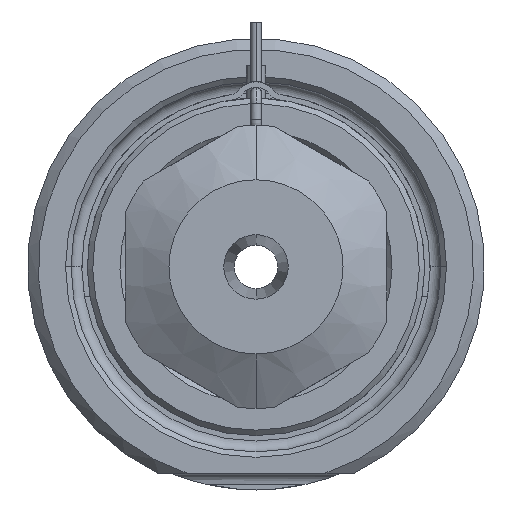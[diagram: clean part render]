
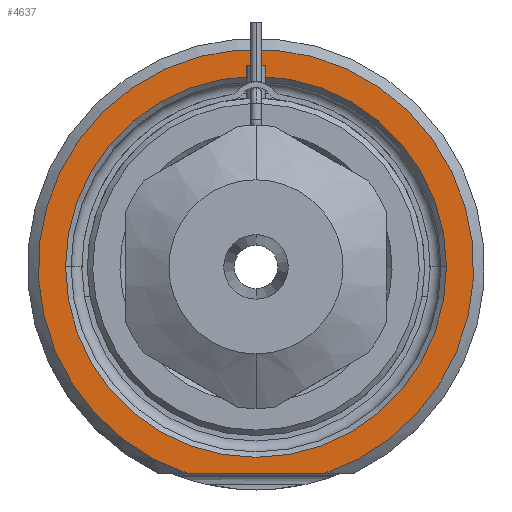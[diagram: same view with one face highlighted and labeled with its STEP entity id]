
A CAD part, front view. The second image highlights one B-rep face of the part: STEP entity #4637.
In plain terms, the highlighted planar face has unit normal (0, -1, 0).
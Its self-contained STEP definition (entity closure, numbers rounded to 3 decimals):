
#1606=CARTESIAN_POINT('',(0.,0.,0.));
#1607=DIRECTION('',(0.,-1.,0.));
#1608=DIRECTION('',(0.312,0.,-0.95));
#1609=AXIS2_PLACEMENT_3D('',#1606,#1607,#1608);
#1630=DIRECTION('',(1.,0.,0.));
#1631=VECTOR('',#1630,12.49);
#1632=CARTESIAN_POINT('',(-6.245,0.,-19.));
#1633=LINE('',#1632,#1631);
#1634=CARTESIAN_POINT('',(0.,0.,0.));
#1635=DIRECTION('',(0.,1.,0.));
#1636=DIRECTION('',(-1.,0.,0.));
#1637=AXIS2_PLACEMENT_3D('',#1634,#1635,#1636);
#1639=CARTESIAN_POINT('',(0.,0.,0.));
#1640=DIRECTION('',(0.,1.,0.));
#1641=DIRECTION('',(1.,0.,0.));
#1642=AXIS2_PLACEMENT_3D('',#1639,#1640,#1641);
#2521=CARTESIAN_POINT('',(-17.5,0.,0.));
#2522=CARTESIAN_POINT('',(17.5,0.,0.));
#2523=VERTEX_POINT('',#2521);
#2524=VERTEX_POINT('',#2522);
#2565=CARTESIAN_POINT('',(-6.245,0.,-19.));
#2566=CARTESIAN_POINT('',(6.245,0.,-19.));
#2567=VERTEX_POINT('',#2565);
#2568=VERTEX_POINT('',#2566);
#4622=CARTESIAN_POINT('',(0.,0.,0.));
#4623=DIRECTION('',(0.,-1.,0.));
#4624=DIRECTION('',(1.,0.,0.));
#4625=AXIS2_PLACEMENT_3D('',#4622,#4623,#4624);
#4626=PLANE('',#4625);
#4627=ORIENTED_EDGE('',*,*,#4554,.F.);
#4628=ORIENTED_EDGE('',*,*,#4614,.F.);
#4629=EDGE_LOOP('',(#4627,#4628));
#4630=FACE_OUTER_BOUND('',#4629,.F.);
#4632=ORIENTED_EDGE('',*,*,#4631,.F.);
#4634=ORIENTED_EDGE('',*,*,#4633,.F.);
#4635=EDGE_LOOP('',(#4632,#4634));
#4636=FACE_BOUND('',#4635,.F.);
#4637=ADVANCED_FACE('',(#4630,#4636),#4626,.T.);
#1610=CIRCLE('',#1609,20.);
#1638=CIRCLE('',#1637,17.5);
#1643=CIRCLE('',#1642,17.5);
#4554=EDGE_CURVE('',#2567,#2568,#1633,.T.);
#4614=EDGE_CURVE('',#2568,#2567,#1610,.T.);
#4631=EDGE_CURVE('',#2523,#2524,#1638,.T.);
#4633=EDGE_CURVE('',#2524,#2523,#1643,.T.);
